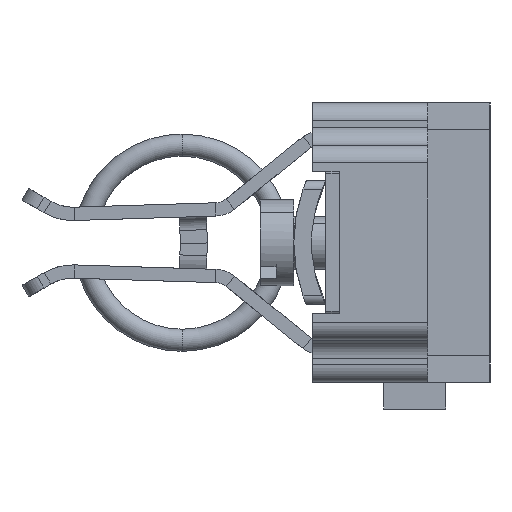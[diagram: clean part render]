
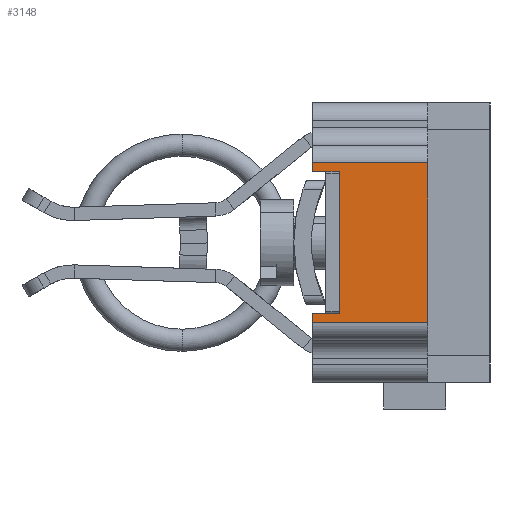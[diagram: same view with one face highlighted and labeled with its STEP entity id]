
A CAD part, left-side view. The second image highlights one B-rep face of the part: STEP entity #3148.
In plain terms, the highlighted planar face has unit normal (-1, 0, 0).
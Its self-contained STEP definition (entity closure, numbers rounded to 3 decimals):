
#294 = ORIENTED_EDGE ( 'NONE', *, *, #11768, .F. ) ;
#439 = AXIS2_PLACEMENT_3D ( 'NONE', #20541, #15571, #20612 ) ;
#597 = CARTESIAN_POINT ( 'NONE',  ( -78.471, 17.261, 17.25 ) ) ;
#1256 = VECTOR ( 'NONE', #3261, 1000. ) ;
#1355 = ORIENTED_EDGE ( 'NONE', *, *, #21820, .T. ) ;
#1681 = VERTEX_POINT ( 'NONE', #13572 ) ;
#2107 = CARTESIAN_POINT ( 'NONE',  ( -78.471, 14.261, 9.5 ) ) ;
#2157 = LINE ( 'NONE', #19715, #4004 ) ;
#2172 = ORIENTED_EDGE ( 'NONE', *, *, #9562, .F. ) ;
#2415 = CARTESIAN_POINT ( 'NONE',  ( -78.471, 17.261, 10.5 ) ) ;
#3148 = ADVANCED_FACE ( 'NONE', ( #10982 ), #3562, .F. ) ;
#3261 = DIRECTION ( 'NONE',  ( 0., 0., -1. ) ) ;
#3562 = PLANE ( 'NONE',  #439 ) ;
#3689 = EDGE_CURVE ( 'NONE', #8631, #5754, #18143, .T. ) ;
#3916 = DIRECTION ( 'NONE',  ( 0., 1., 0. ) ) ;
#4004 = VECTOR ( 'NONE', #21103, 1000. ) ;
#4271 = EDGE_CURVE ( 'NONE', #18241, #10139, #11923, .T. ) ;
#5566 = CARTESIAN_POINT ( 'NONE',  ( -78.471, 14.261, -6.5 ) ) ;
#5754 = VERTEX_POINT ( 'NONE', #12443 ) ;
#5815 = CARTESIAN_POINT ( 'NONE',  ( -78.471, 14.261, 9.5 ) ) ;
#6960 = VERTEX_POINT ( 'NONE', #21933 ) ;
#7189 = ORIENTED_EDGE ( 'NONE', *, *, #20106, .T. ) ;
#7394 = EDGE_CURVE ( 'NONE', #1681, #10809, #2157, .T. ) ;
#7622 = VECTOR ( 'NONE', #3916, 1000. ) ;
#7670 = VECTOR ( 'NONE', #20332, 1000. ) ;
#7869 = DIRECTION ( 'NONE',  ( 0., -1., 0. ) ) ;
#8118 = ORIENTED_EDGE ( 'NONE', *, *, #7394, .T. ) ;
#8418 = ORIENTED_EDGE ( 'NONE', *, *, #4271, .F. ) ;
#8631 = VERTEX_POINT ( 'NONE', #20931 ) ;
#8816 = CARTESIAN_POINT ( 'NONE',  ( -78.471, 17.261, 9.5 ) ) ;
#8947 = LINE ( 'NONE', #597, #7670 ) ;
#9164 = VECTOR ( 'NONE', #11160, 1000. ) ;
#9346 = CARTESIAN_POINT ( 'NONE',  ( -78.471, 4.261, -7.5 ) ) ;
#9397 = CARTESIAN_POINT ( 'NONE',  ( -78.471, 14.261, -6.5 ) ) ;
#9562 = EDGE_CURVE ( 'NONE', #10139, #18157, #10004, .T. ) ;
#9665 = ORIENTED_EDGE ( 'NONE', *, *, #3689, .T. ) ;
#9775 = VECTOR ( 'NONE', #16994, 1000. ) ;
#10004 = LINE ( 'NONE', #5815, #7622 ) ;
#10139 = VERTEX_POINT ( 'NONE', #2107 ) ;
#10340 = LINE ( 'NONE', #11655, #1256 ) ;
#10809 = VERTEX_POINT ( 'NONE', #2415 ) ;
#10982 = FACE_OUTER_BOUND ( 'NONE', #11913, .T. ) ;
#11160 = DIRECTION ( 'NONE',  ( 0., 0., -1. ) ) ;
#11655 = CARTESIAN_POINT ( 'NONE',  ( -78.471, 4.261, 17.25 ) ) ;
#11768 = EDGE_CURVE ( 'NONE', #1681, #5754, #10340, .T. ) ;
#11913 = EDGE_LOOP ( 'NONE', ( #7189, #9665, #294, #8118, #1355, #2172, #8418, #16535 ) ) ;
#11923 = LINE ( 'NONE', #18514, #9775 ) ;
#12253 = VECTOR ( 'NONE', #7869, 1000. ) ;
#12443 = CARTESIAN_POINT ( 'NONE',  ( -78.471, 4.261, -7.5 ) ) ;
#13572 = CARTESIAN_POINT ( 'NONE',  ( -78.471, 4.261, 10.5 ) ) ;
#15571 = DIRECTION ( 'NONE',  ( 1., 0., 0. ) ) ;
#15695 = DIRECTION ( 'NONE',  ( 0., 1., 0. ) ) ;
#16121 = EDGE_CURVE ( 'NONE', #18241, #6960, #17539, .T. ) ;
#16123 = CARTESIAN_POINT ( 'NONE',  ( -78.471, 17.261, 17.25 ) ) ;
#16535 = ORIENTED_EDGE ( 'NONE', *, *, #16121, .T. ) ;
#16994 = DIRECTION ( 'NONE',  ( 0., 0., 1. ) ) ;
#17539 = LINE ( 'NONE', #5566, #20489 ) ;
#18143 = LINE ( 'NONE', #9346, #12253 ) ;
#18157 = VERTEX_POINT ( 'NONE', #8816 ) ;
#18241 = VERTEX_POINT ( 'NONE', #9397 ) ;
#18514 = CARTESIAN_POINT ( 'NONE',  ( -78.471, 14.261, 9.5 ) ) ;
#19715 = CARTESIAN_POINT ( 'NONE',  ( -78.471, 4.261, 10.5 ) ) ;
#20106 = EDGE_CURVE ( 'NONE', #6960, #8631, #20126, .T. ) ;
#20126 = LINE ( 'NONE', #16123, #9164 ) ;
#20332 = DIRECTION ( 'NONE',  ( 0., 0., -1. ) ) ;
#20489 = VECTOR ( 'NONE', #15695, 1000. ) ;
#20541 = CARTESIAN_POINT ( 'NONE',  ( -78.471, 4.261, 17.25 ) ) ;
#20612 = DIRECTION ( 'NONE',  ( 0., 0., -1. ) ) ;
#20931 = CARTESIAN_POINT ( 'NONE',  ( -78.471, 17.261, -7.5 ) ) ;
#21103 = DIRECTION ( 'NONE',  ( 0., 1., 0. ) ) ;
#21820 = EDGE_CURVE ( 'NONE', #10809, #18157, #8947, .T. ) ;
#21933 = CARTESIAN_POINT ( 'NONE',  ( -78.471, 17.261, -6.5 ) ) ;
